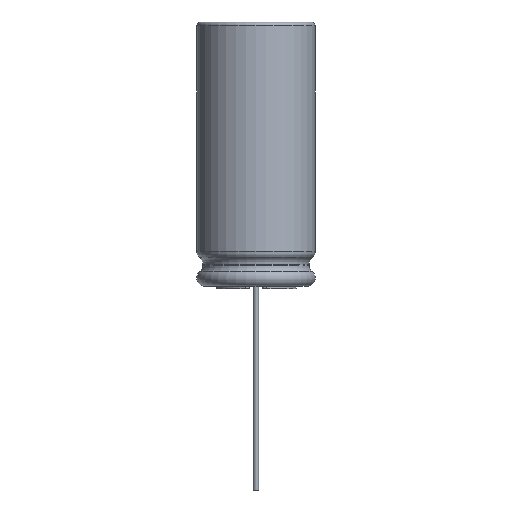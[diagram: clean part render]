
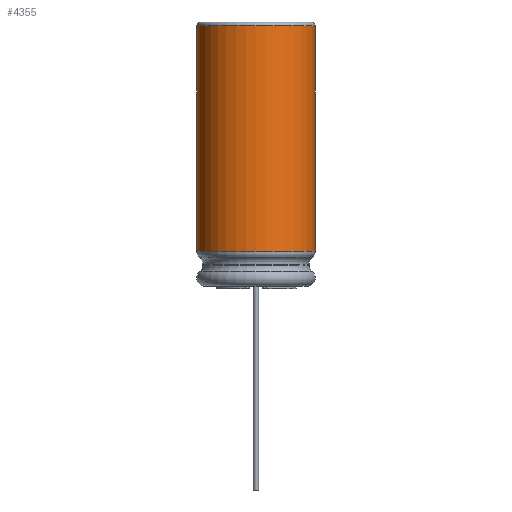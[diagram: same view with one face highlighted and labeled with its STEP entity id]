
A CAD part, front view. The second image highlights one B-rep face of the part: STEP entity #4355.
In plain terms, the highlighted cylindrical face has radius 9.1 mm (diameter 18.2 mm), a full revolution.
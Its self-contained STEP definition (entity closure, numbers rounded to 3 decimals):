
#492=FACE_BOUND('',#1233,.T.);
#540=CYLINDRICAL_SURFACE('',#4763,9.1);
#587=CIRCLE('',#4762,9.1);
#588=CIRCLE('',#4764,9.1);
#981=FACE_OUTER_BOUND('',#1232,.T.);
#1232=EDGE_LOOP('',(#3792));
#1233=EDGE_LOOP('',(#3793));
#2355=VERTEX_POINT('',#24728);
#2356=VERTEX_POINT('',#24731);
#2852=EDGE_CURVE('',#2355,#2355,#587,.T.);
#2853=EDGE_CURVE('',#2356,#2356,#588,.T.);
#3792=ORIENTED_EDGE('',*,*,#2852,.T.);
#3793=ORIENTED_EDGE('',*,*,#2853,.F.);
#4355=ADVANCED_FACE('',(#981,#492),#540,.T.);
#4762=AXIS2_PLACEMENT_3D('',#24729,#5774,#5775);
#4763=AXIS2_PLACEMENT_3D('',#24730,#5776,#5777);
#4764=AXIS2_PLACEMENT_3D('',#24732,#5778,#5779);
#5774=DIRECTION('center_axis',(0.,0.,-1.));
#5775=DIRECTION('ref_axis',(1.,0.,0.));
#5776=DIRECTION('center_axis',(0.,0.,-1.));
#5777=DIRECTION('ref_axis',(-1.,0.,0.));
#5778=DIRECTION('center_axis',(0.,0.,-1.));
#5779=DIRECTION('ref_axis',(1.,0.,0.));
#24728=CARTESIAN_POINT('',(-9.1,0.,38.9));
#24729=CARTESIAN_POINT('Origin',(0.,0.,38.9));
#24730=CARTESIAN_POINT('Origin',(0.,0.,21.591));
#24731=CARTESIAN_POINT('',(-9.1,0.,4.283));
#24732=CARTESIAN_POINT('Origin',(0.,0.,4.283));
